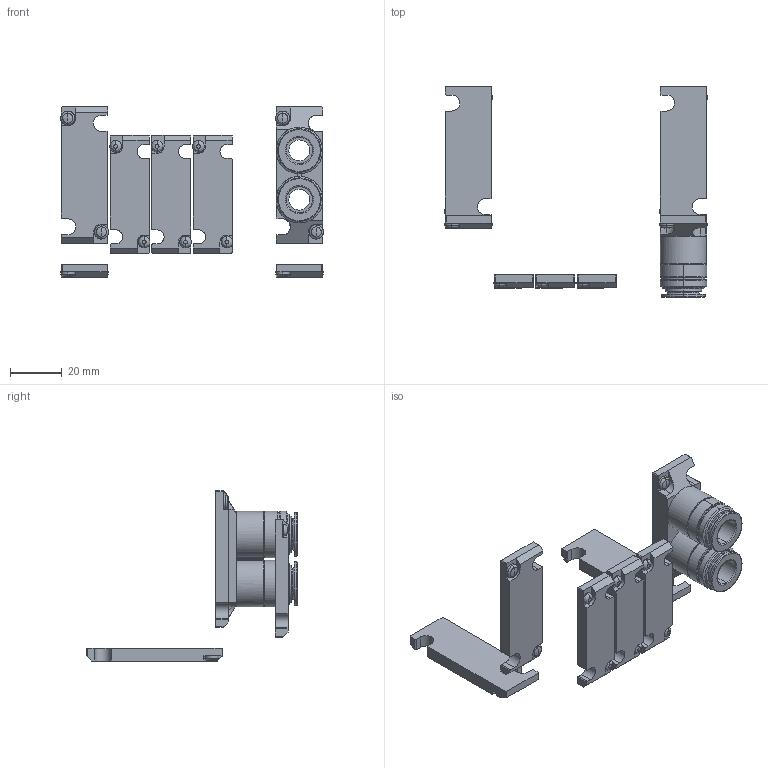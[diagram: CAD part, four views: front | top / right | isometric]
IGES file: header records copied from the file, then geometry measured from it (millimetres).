
Start section: ------------------------------------------------------------------------
Global section: file name: D:\ICADMX\tmp\trans3d_spg\CVICAD02.5220.F15M4XPJ-JR-F10x-DN_16648.igs; native system: spGate; preprocessor: ver12.6.6; author: Unknown; organization: Unknown; date: 210712.184807; units: millimetre
Bounding box: 101.5 x 81.4 x 65.7 mm (x, y, z)
Volume: 35777.2 mm3; surface area: 20999 mm2
Topology: 7 solids, 7 shells, 416 faces, 1062 edges, 656 vertices
Faces by surface type: bspline 416
